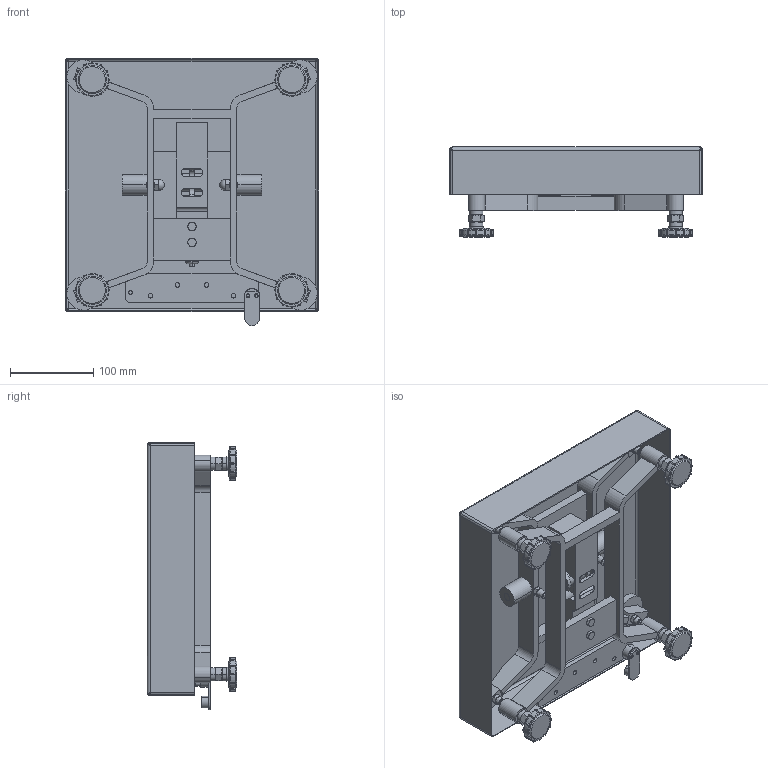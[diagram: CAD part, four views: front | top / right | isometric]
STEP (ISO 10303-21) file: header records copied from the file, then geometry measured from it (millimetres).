
FILE_DESCRIPTION((''),'2;1');
FILE_NAME('PLATFORM_PBA43X_QB_HYGIENIC','2022-03-18T09:37:28',('fu-34'),(''),'CREO PARAMETRIC BY PTC INC, 2018260','CREO PARAMETRIC BY PTC INC, 2018260','');
FILE_SCHEMA(('CONFIG_CONTROL_DESIGN','SHAPE_APPEARANCE_LAYERS_GROUPS'));
Products named in the file (1): PLATFORM_PBA43X_QB_HYGIENIC
Bounding box: 304.9 x 108.2 x 321.78 mm (x, y, z)
Volume: 856109.3 mm3; surface area: 588427.4 mm2
Topology: 16 solids, 113 shells, 2106 faces, 4953 edges, 3035 vertices
Faces by surface type: plane 754, cylinder 738, cone 456, torus 146, bspline 8, sphere 4
Entity records: 76424 total; most frequent: CARTESIAN_POINT 15432, DIRECTION 10219, ORIENTED_EDGE 9606, EDGE_CURVE 4909, AXIS2_PLACEMENT_3D 4125, VERTEX_POINT 3035, PRESENTATION_STYLE_ASSIGNMENT 2490, STYLED_ITEM 2490
